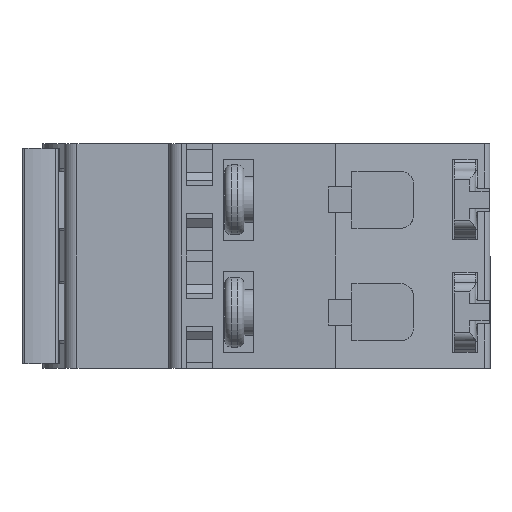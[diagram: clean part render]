
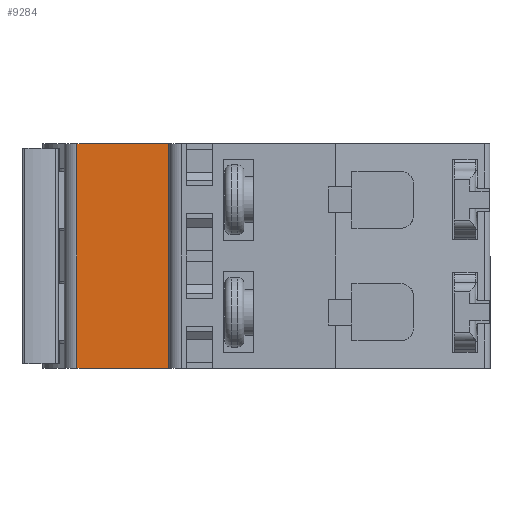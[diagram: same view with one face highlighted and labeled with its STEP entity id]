
A CAD part, front view. The second image highlights one B-rep face of the part: STEP entity #9284.
In plain terms, the highlighted planar face has unit normal (0, -1, 0).
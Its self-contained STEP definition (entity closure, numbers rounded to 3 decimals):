
#198 = EDGE_CURVE ( 'NONE', #3474, #12976, #1239, .T. ) ;
#221 = DIRECTION ( 'NONE',  ( 0., 0., -1. ) ) ;
#289 = ORIENTED_EDGE ( 'NONE', *, *, #5700, .T. ) ;
#1175 = CARTESIAN_POINT ( 'NONE',  ( -50.377, -9.523, 36.924 ) ) ;
#1196 = CARTESIAN_POINT ( 'NONE',  ( -64.677, -9.523, 36.924 ) ) ;
#1201 = CARTESIAN_POINT ( 'NONE',  ( -50.377, -9.523, 19.424 ) ) ;
#1226 = LINE ( 'NONE', #3168, #6604 ) ;
#1239 = LINE ( 'NONE', #1175, #8569 ) ;
#1537 = ORIENTED_EDGE ( 'NONE', *, *, #198, .T. ) ;
#1655 = LINE ( 'NONE', #6713, #12749 ) ;
#1715 = DIRECTION ( 'NONE',  ( -1., 0., 0. ) ) ;
#2117 = DIRECTION ( 'NONE',  ( 1., 0., 0. ) ) ;
#2856 = EDGE_CURVE ( 'NONE', #3474, #2927, #7198, .T. ) ;
#2927 = VERTEX_POINT ( 'NONE', #10440 ) ;
#3168 = CARTESIAN_POINT ( 'NONE',  ( -64.677, -9.523, 19.424 ) ) ;
#3474 = VERTEX_POINT ( 'NONE', #10205 ) ;
#4302 = CARTESIAN_POINT ( 'NONE',  ( -50.377, -9.523, 19.424 ) ) ;
#4534 = ORIENTED_EDGE ( 'NONE', *, *, #6026, .F. ) ;
#5700 = EDGE_CURVE ( 'NONE', #12976, #9905, #1226, .T. ) ;
#6026 = EDGE_CURVE ( 'NONE', #2927, #9905, #1655, .T. ) ;
#6241 = PLANE ( 'NONE',  #12818 ) ;
#6371 = FACE_OUTER_BOUND ( 'NONE', #12896, .T. ) ;
#6604 = VECTOR ( 'NONE', #221, 1000. ) ;
#6713 = CARTESIAN_POINT ( 'NONE',  ( -50.377, -9.523, 1.924 ) ) ;
#6838 = VECTOR ( 'NONE', #12497, 1000. ) ;
#7198 = LINE ( 'NONE', #1201, #6838 ) ;
#8173 = DIRECTION ( 'NONE',  ( -1., 0., 0. ) ) ;
#8569 = VECTOR ( 'NONE', #8173, 1000. ) ;
#8896 = ORIENTED_EDGE ( 'NONE', *, *, #2856, .F. ) ;
#9202 = CARTESIAN_POINT ( 'NONE',  ( -64.677, -9.523, 1.924 ) ) ;
#9284 = ADVANCED_FACE ( 'NONE', ( #6371 ), #6241, .T. ) ;
#9905 = VERTEX_POINT ( 'NONE', #9202 ) ;
#10205 = CARTESIAN_POINT ( 'NONE',  ( -50.377, -9.523, 36.924 ) ) ;
#10440 = CARTESIAN_POINT ( 'NONE',  ( -50.377, -9.523, 1.924 ) ) ;
#12485 = DIRECTION ( 'NONE',  ( 0., -1., 0. ) ) ;
#12497 = DIRECTION ( 'NONE',  ( 0., 0., -1. ) ) ;
#12749 = VECTOR ( 'NONE', #1715, 1000. ) ;
#12818 = AXIS2_PLACEMENT_3D ( 'NONE', #4302, #12485, #2117 ) ;
#12896 = EDGE_LOOP ( 'NONE', ( #8896, #1537, #289, #4534 ) ) ;
#12976 = VERTEX_POINT ( 'NONE', #1196 ) ;
